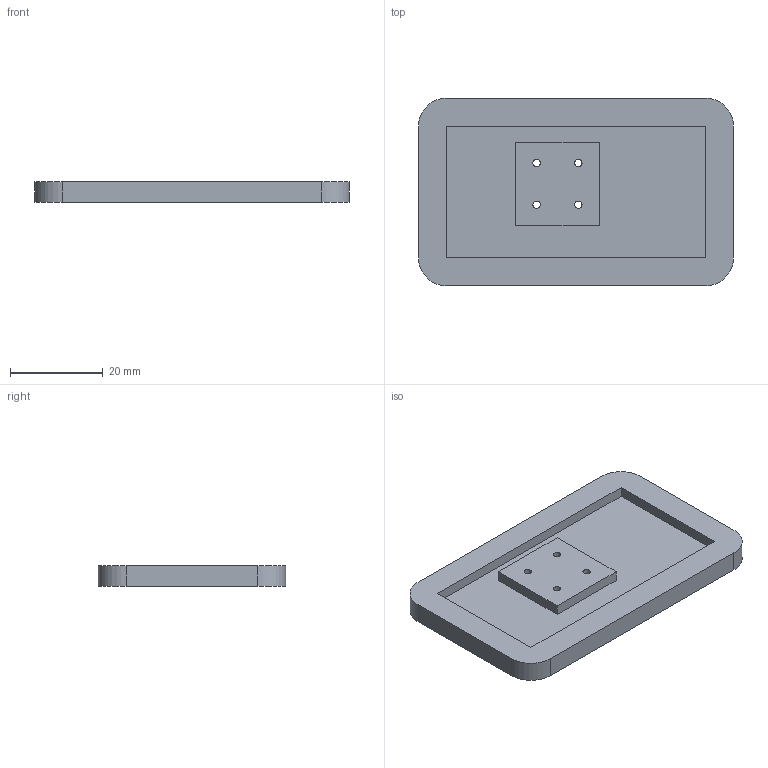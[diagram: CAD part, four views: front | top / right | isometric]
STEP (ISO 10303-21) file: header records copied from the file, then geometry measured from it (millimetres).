
FILE_DESCRIPTION(('FreeCAD Model'),'2;1');
FILE_NAME('Open CASCADE Shape Model','2026-11-08T20:38:39',('FreeCAD'),( 'FreeCAD'),'Open CASCADE STEP processor 7.8','FreeCAD','Unknown');
FILE_SCHEMA(('AUTOMOTIVE_DESIGN { 1 0 10303 214 1 1 1 1 }'));
Length unit declared in the file: millimetre
Products named in the file (1): Open CASCADE STEP translator 7.8 14
Bounding box: 68 x 40.5 x 4.5 mm (x, y, z)
Volume: 9292.1 mm3; surface area: 7005 mm2
Topology: 1 solids, 1 shells, 24 faces, 60 edges, 40 vertices
Faces by surface type: plane 16, cylinder 8
Full cylindrical faces by diameter (mm): 1.6 x4
Entity records: 746 total; most frequent: DIRECTION 126, CARTESIAN_POINT 125, ORIENTED_EDGE 120, EDGE_CURVE 60, LINE 44, VECTOR 44, AXIS2_PLACEMENT_3D 41, VERTEX_POINT 40
